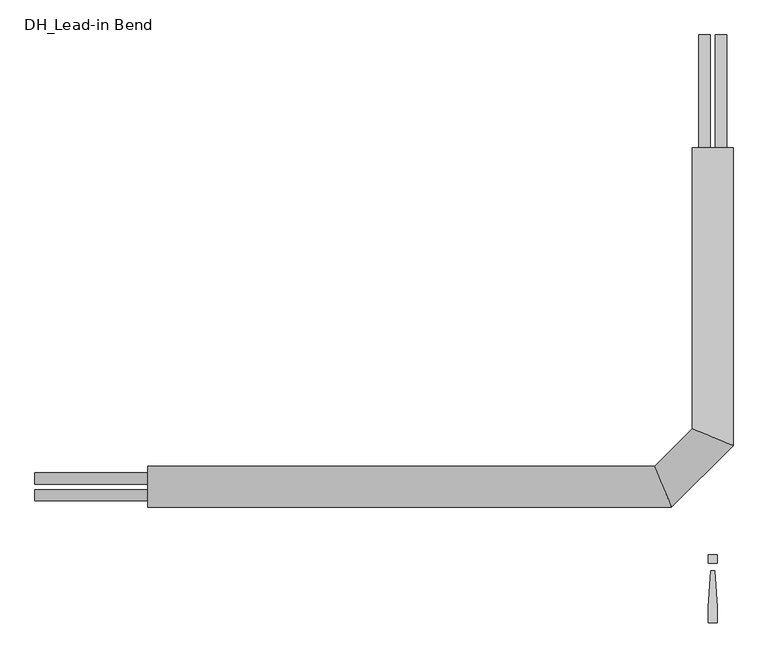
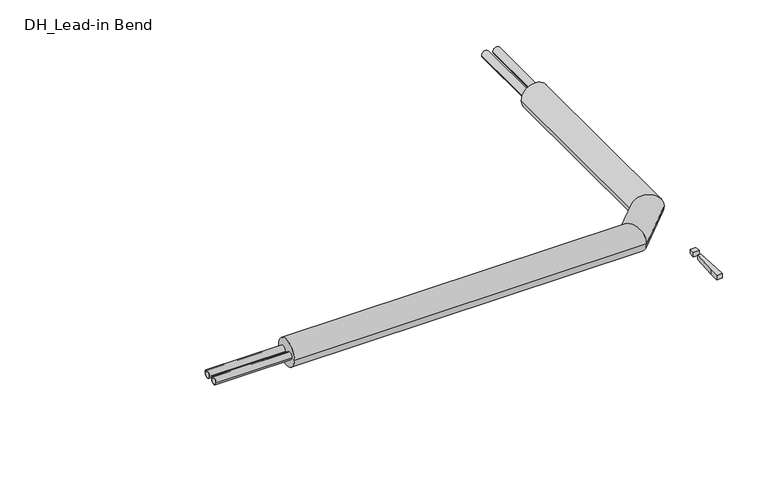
"""IFC4 building model written with IfcOpenShell, lengths in millimetres: pipe fitting geometry, DH_Lead-in Bend : INSULPEX DUO 11 Heating Vertical."""

from ifc_helpers import new_model, si_unit, point, frame, frame_2d, origin, origin_with_axes, place, context, project, spatial, polyline, circle_curve, ellipse_curve, trimmed, segment, composite_curve, outline, extrude, source, transform, mapped, element, save
from ifc_brep_helpers import plane_surface, cylinder_surface, advanced_brep


def dh_lead_in_bend_cdc12d39(model_context):
    return source(origin(), model_context, "Body", "SolidModel", [
        extrude(outline(composite_curve([segment(trimmed(circle_curve(frame_2d((-18.5, 0.0)), 12.5), [point((-6.0, 0.0))], [point((-31.0, 0.0))], False, "CARTESIAN"), True, "CONTINUOUS"), segment(trimmed(circle_curve(frame_2d((-18.5, 0.0)), 12.5), [point((-31.0, 0.0))], [point((-6.0, 0.0))], False, "CARTESIAN"), True, "CONTINUOUS")], self_intersect=False), holes=[composite_curve([segment(trimmed(circle_curve(frame_2d((-18.5, 0.0)), 10.2), [point((-8.3, 0.0))], [point((-28.7, 0.0))], True, "CARTESIAN"), True, "CONTINUOUS"), segment(trimmed(circle_curve(frame_2d((-18.5, 0.0)), 10.2), [point((-28.7, 0.0))], [point((-8.3, 0.0))], True, "CARTESIAN"), True, "CONTINUOUS")], self_intersect=False)]), frame((-1500.0, 0.0, 0.0), z_axis=(1.0, 0.0, 0.0), x_axis=(0.0, 1.0, 0.0)), (0.0, 0.0, 1.0), 250.0),
        advanced_brep(
        [(-1250.0, -45.0, 0.0), (-1250.0, 45.0, 0.0), (-91.3603897, -45.0, 0.0), (-128.6396103, 45.0, 0.0), (45.0, 750.0, 0.0), (-45.0, 750.0, 0.0), (-45.0, 128.6396103, 0.0), (45.0, 91.3603897, 0.0)],
        [
            (0, 1, circle_curve(frame((-1250.0, 0.0, 0.0), z_axis=(-1.0, 0.0, 0.0), x_axis=(0.0, 1.0, 0.0)), 45.0)),
            (1, 0, circle_curve(frame((-1250.0, 0.0, 0.0), z_axis=(-1.0, 0.0, 0.0), x_axis=(0.0, 1.0, 0.0)), 45.0)),
            (0, 2),
            (2, 3, ellipse_curve(frame((-110.0, 0.0, 0.0), z_axis=(-0.9238795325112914, -0.3826834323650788, 0.0), x_axis=(-0.38268343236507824, 0.9238795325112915, 0.0)), 48.707649, 45.0)),
            (3, 1),
            (3, 2, ellipse_curve(frame((-110.0, 0.0, 0.0), z_axis=(-0.9238795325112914, -0.3826834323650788, 0.0), x_axis=(-0.38268343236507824, 0.9238795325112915, 0.0)), 48.707649, 45.0)),
            (4, 5, circle_curve(frame((0.0, 750.0, 0.0), z_axis=(0.0, 1.0, 0.0), x_axis=(-1.0, 0.0, 0.0)), 45.0)),
            (5, 4, circle_curve(frame((0.0, 750.0, 0.0), z_axis=(0.0, 1.0, 0.0), x_axis=(-1.0, 0.0, 0.0)), 45.0)),
            (6, 7, ellipse_curve(frame((0.0, 110.0, 0.0), z_axis=(0.38268343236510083, 0.9238795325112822, 0.0), x_axis=(0.9238795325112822, -0.3826834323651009, 0.0)), 48.707649, 45.0)),
            (7, 4),
            (5, 6),
            (7, 6, ellipse_curve(frame((0.0, 110.0, 0.0), z_axis=(0.38268343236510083, 0.9238795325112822, 0.0), x_axis=(0.9238795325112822, -0.3826834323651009, 0.0)), 48.707649, 45.0)),
            (2, 7),
            (6, 3),
        ],
        [
            plane_surface(frame((-1250.0, 0.0, 0.0), z_axis=(-1.0, 0.0, 0.0), x_axis=(0.0, 0.0, 1.0))),
            cylinder_surface(frame((-1250.0, 0.0, 0.0), z_axis=(-1.0, 0.0, 0.0), x_axis=(0.0, 1.0, 0.0)), 45.0),
            plane_surface(frame((0.0, 750.0, 0.0), z_axis=(0.0, 1.0, 0.0), x_axis=(0.0, 0.0, 1.0))),
            cylinder_surface(frame((0.0, 110.0, 0.0), z_axis=(0.0, -1.0, 0.0), x_axis=(-1.0, 0.0, 0.0)), 45.0),
            cylinder_surface(frame((-110.0, 0.0, 0.0), z_axis=(-0.7071067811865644, -0.7071067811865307, 0.0), x_axis=(-0.7071067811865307, 0.7071067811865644, 0.0)), 45.0),
        ],
        [
            (0, [[1, 2]]),
            (1, [[-1, 3, 4, 5]]),
            (1, [[-2, -5, 6, -3]]),
            (2, [[7, 8]]),
            (3, [[9, 10, -8, 11]]),
            (3, [[12, -11, -7, -10]]),
            (4, [[-4, 13, -9, 14]]),
            (4, [[-6, -14, -12, -13]]),
        ],
    ),
        extrude(outline(composite_curve([segment(trimmed(circle_curve(frame_2d((0.0, -18.5)), 12.5), [point((0.0, -6.0))], [point((0.0, -31.0))], False, "CARTESIAN"), True, "CONTINUOUS"), segment(trimmed(circle_curve(frame_2d((0.0, -18.5)), 12.5), [point((0.0, -31.0))], [point((0.0, -6.0))], False, "CARTESIAN"), True, "CONTINUOUS")], self_intersect=False), holes=[composite_curve([segment(trimmed(circle_curve(frame_2d((0.0, -18.5)), 10.2), [point((0.0, -8.3))], [point((0.0, -28.7))], True, "CARTESIAN"), True, "CONTINUOUS"), segment(trimmed(circle_curve(frame_2d((0.0, -18.5)), 10.2), [point((0.0, -28.7))], [point((0.0, -8.3))], True, "CARTESIAN"), True, "CONTINUOUS")], self_intersect=False)]), frame((0.0, 750.0, 0.0), z_axis=(0.0, 1.0, 0.0), x_axis=(0.0, 0.0, 1.0)), (0.0, 0.0, 1.0), 250.0),
        extrude(outline(composite_curve([segment(trimmed(circle_curve(frame_2d((18.5, 0.0)), 12.5), [point((6.0, 0.0))], [point((31.0, 0.0))], False, "CARTESIAN"), True, "CONTINUOUS"), segment(trimmed(circle_curve(frame_2d((18.5, 0.0)), 12.5), [point((31.0, 0.0))], [point((6.0, 0.0))], False, "CARTESIAN"), True, "CONTINUOUS")], self_intersect=False), holes=[composite_curve([segment(trimmed(circle_curve(frame_2d((18.5, 0.0)), 10.2), [point((8.3, 0.0))], [point((28.7, 0.0))], True, "CARTESIAN"), True, "CONTINUOUS"), segment(trimmed(circle_curve(frame_2d((18.5, 0.0)), 10.2), [point((28.7, 0.0))], [point((8.3, 0.0))], True, "CARTESIAN"), True, "CONTINUOUS")], self_intersect=False)]), frame((-1500.0, 0.0, 0.0), z_axis=(1.0, 0.0, 0.0), x_axis=(0.0, 1.0, 0.0)), (0.0, 0.0, 1.0), 250.0),
        extrude(outline(composite_curve([segment(trimmed(circle_curve(frame_2d((0.0, 18.5)), 12.5), [point((0.0, 6.0))], [point((0.0, 31.0))], False, "CARTESIAN"), True, "CONTINUOUS"), segment(trimmed(circle_curve(frame_2d((0.0, 18.5)), 12.5), [point((0.0, 31.0))], [point((0.0, 6.0))], False, "CARTESIAN"), True, "CONTINUOUS")], self_intersect=False), holes=[composite_curve([segment(trimmed(circle_curve(frame_2d((0.0, 18.5)), 10.2), [point((0.0, 8.3))], [point((0.0, 28.7))], True, "CARTESIAN"), True, "CONTINUOUS"), segment(trimmed(circle_curve(frame_2d((0.0, 18.5)), 10.2), [point((0.0, 28.7))], [point((0.0, 8.3))], True, "CARTESIAN"), True, "CONTINUOUS")], self_intersect=False)]), frame((0.0, 750.0, 0.0), z_axis=(0.0, 1.0, 0.0), x_axis=(0.0, 0.0, 1.0)), (0.0, 0.0, 1.0), 250.0),
        extrude(outline(polyline([(4.7088895, -185.3166715), (9.4177791, -266.6553807), (9.4177791, -300.6844652), (-9.4177791, -300.6844652), (-9.4177791, -266.6553807), (-4.7088895, -185.3166715), (4.7088895, -185.3166715)])), origin_with_axes(), (0.0, 0.0, 1.0), 15.0),
        extrude(outline(polyline([(9.4177791, -150.0), (9.4177791, -168.8355582), (-9.4177791, -168.8355582), (-9.4177791, -150.0), (9.4177791, -150.0)])), origin_with_axes(), (0.0, 0.0, 1.0), 15.0),
    ])


if __name__ == "__main__":
    model = new_model("IFC4")
    model_context = context("Model", 3, world=origin())
    ifc_project = project(units=[si_unit("LENGTHUNIT", "METRE", prefix="MILLI")], contexts=[model_context])
    site = spatial("IfcSite", under=ifc_project)
    building = spatial("IfcBuilding", under=site)
    placement = place(None, origin())
    dh_lead_in_bend_shape = dh_lead_in_bend_cdc12d39(model_context)
    element("IfcPipeFitting", 1, ObjectType="DH_Lead-in Bend : INSULPEX DUO 11 Heating Vertical", at=placement, inside=building, context=model_context, shape_type="MappedRepresentation", body=[
        mapped(dh_lead_in_bend_shape, transform((0.0, 0.0, 0.0), x_axis=(1.0, 0.0, 0.0), y_axis=(0.0, 1.0, 0.0), z_axis=(0.0, 0.0, 1.0))),
    ])
    save(model, "model.ifc")
